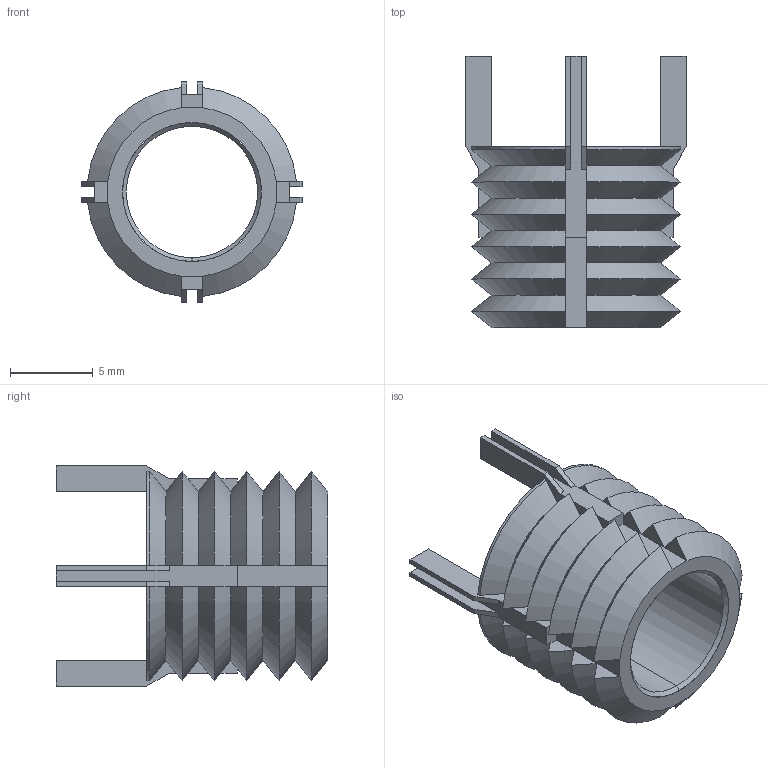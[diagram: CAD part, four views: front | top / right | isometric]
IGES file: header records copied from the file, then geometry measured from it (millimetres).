
Start section: SolidWorks IGES file using analytic representation for surfaces
Global section: file name: C:\Users\IanO\Desktop\TR1575\TR1575_v2_20230420_IGES\TR1575.65903.igs; native system: SolidWorks 2019; preprocessor: SolidWorks 2019; author: IanO; date: 230420.093050; units: inch
Bounding box: 13.31 x 16.38 x 13.31 mm (x, y, z)
Surface area: 1284.9 mm2 (no closed solid volume)
Topology: 0 solids, 0 shells, 156 faces, 808 edges, 808 vertices
Faces by surface type: bspline 102, revolution 54
